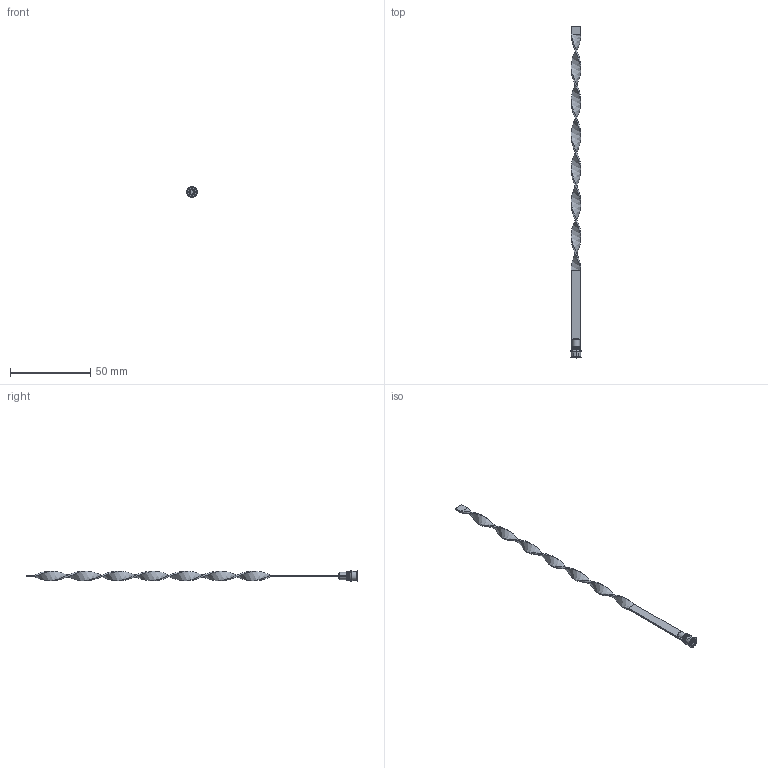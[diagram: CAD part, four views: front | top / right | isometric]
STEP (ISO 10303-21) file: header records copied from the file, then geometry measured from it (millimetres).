
FILE_DESCRIPTION (( 'STEP AP203' ), '1' );
FILE_NAME ('RLS6Fx200.STEP', '2015-12-04T14:19:04', ( 'Balzi' ), ( '' ), 'SwSTEP 2.0', 'SolidWorks 2015', '' );
FILE_SCHEMA (( 'CONFIG_CONTROL_DESIGN' ));
Length unit declared in the file: millimetre
Products named in the file (1): RLS6Fx200
Bounding box: 6.8 x 207 x 6.8 mm (x, y, z)
Volume: 1361.3 mm3; surface area: 3144.7 mm2
Topology: 1 solids, 1 shells, 70 faces, 166 edges, 104 vertices
Faces by surface type: plane 32, cylinder 15, cone 12, torus 7, bspline 4
Entity records: 4276 total; most frequent: CARTESIAN_POINT 2611, ORIENTED_EDGE 332, DIRECTION 329, EDGE_CURVE 166, AXIS2_PLACEMENT_3D 122, VERTEX_POINT 104, LINE 85, VECTOR 85
